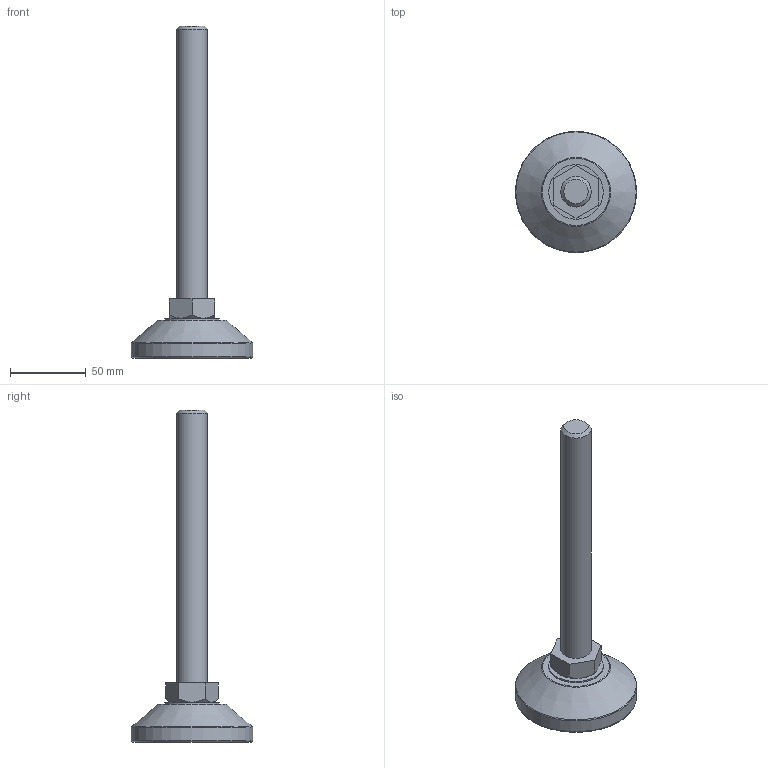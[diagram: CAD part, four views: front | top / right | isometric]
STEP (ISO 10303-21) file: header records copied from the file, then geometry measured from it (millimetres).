
FILE_DESCRIPTION(/* description */ (''),/* implementation_level */ '2;1');
FILE_NAME(/* name */ 'D:\조절자\F\F-M20-180L.stp',/* time_stamp */ '2016-03-14T14:31:21+09:00',/* author */ ('GS-DT-1-001'),/* organization */ (''),/* preprocessor_version */ 'ST-DEVELOPER v15.6',/* originating_system */ 'Autodesk Inventor LT ',/* authorisation */ '');
FILE_SCHEMA (('AUTOMOTIVE_DESIGN { 1 0 10303 214 3 1 1 }'));
Length unit declared in the file: millimetre
Products named in the file (1): F-M20-180L
Bounding box: 80 x 80 x 219 mm (x, y, z)
Volume: 134454.6 mm3; surface area: 33851.6 mm2
Topology: 4 solids, 4 shells, 46 faces, 82 edges, 51 vertices
Faces by surface type: plane 21, cylinder 13, cone 8, torus 4
Full cylindrical faces by diameter (mm): 6.912 x1, 8 x1, 8.2 x1, 8.3 x1, 16 x1, 20 x1, 36 x1, 50 x1, 57 x1, 61 x1, 71 x1, 75 x1, 80 x1
Entity records: 995 total; most frequent: DIRECTION 180, CARTESIAN_POINT 163, ORIENTED_EDGE 110, AXIS2_PLACEMENT_3D 84, EDGE_LOOP 82, EDGE_CURVE 55, VERTEX_POINT 49, FACE_OUTER_BOUND 46
